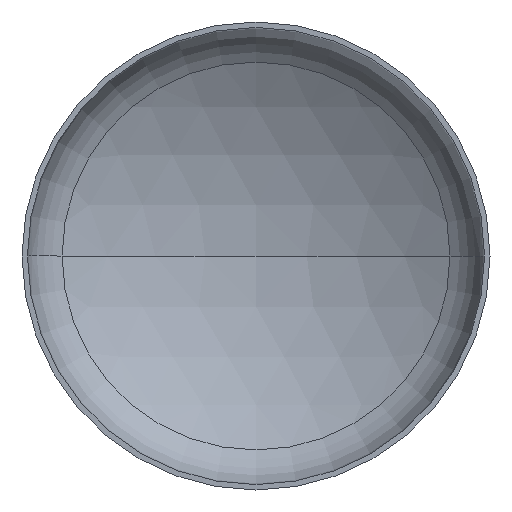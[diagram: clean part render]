
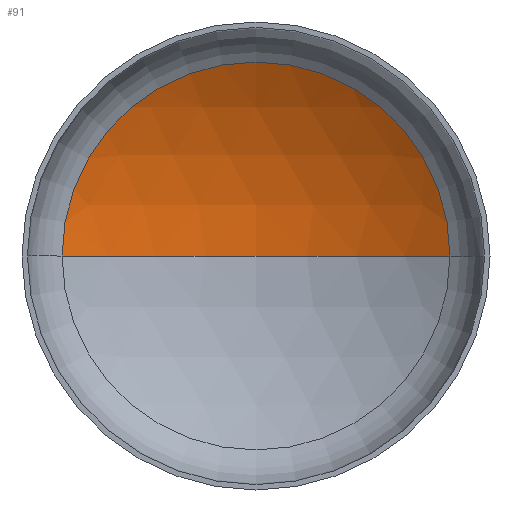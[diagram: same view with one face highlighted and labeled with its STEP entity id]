
A CAD part, front view. The second image highlights one B-rep face of the part: STEP entity #91.
In plain terms, the highlighted spherical face has radius 2400 mm.
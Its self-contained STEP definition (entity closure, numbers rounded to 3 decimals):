
#14 = VERTEX_POINT ( 'NONE', #274 ) ;
#17 = EDGE_LOOP ( 'NONE', ( #78, #44, #162 ) ) ;
#19 = VERTEX_POINT ( 'NONE', #248 ) ;
#33 = AXIS2_PLACEMENT_3D ( 'NONE', #377, #232, #328 ) ;
#37 = AXIS2_PLACEMENT_3D ( 'NONE', #355, #281, #211 ) ;
#39 = AXIS2_PLACEMENT_3D ( 'NONE', #160, #333, #187 ) ;
#44 = ORIENTED_EDGE ( 'NONE', *, *, #352, .T. ) ;
#54 = FACE_OUTER_BOUND ( 'NONE', #17, .T. ) ;
#71 = VERTEX_POINT ( 'NONE', #227 ) ;
#78 = ORIENTED_EDGE ( 'NONE', *, *, #357, .F. ) ;
#89 = AXIS2_PLACEMENT_3D ( 'NONE', #243, #228, #340 ) ;
#91 = ADVANCED_FACE ( 'NONE', ( #54 ), #190, .F. ) ;
#160 = CARTESIAN_POINT ( 'NONE',  ( 0., 503.464, 0. ) ) ;
#162 = ORIENTED_EDGE ( 'NONE', *, *, #350, .T. ) ;
#187 = DIRECTION ( 'NONE',  ( 1., 0., 0. ) ) ;
#190 = SPHERICAL_SURFACE ( 'NONE', #89, 2400. ) ;
#192 = CIRCLE ( 'NONE', #33, 2400. ) ;
#211 = DIRECTION ( 'NONE',  ( 1., 0., 0. ) ) ;
#227 = CARTESIAN_POINT ( 'NONE',  ( 1243.299, 503.464, 0. ) ) ;
#228 = DIRECTION ( 'NONE',  ( 0., 0., -1. ) ) ;
#232 = DIRECTION ( 'NONE',  ( 0., 0., -1. ) ) ;
#243 = CARTESIAN_POINT ( 'NONE',  ( 0., -1549.39, 0. ) ) ;
#248 = CARTESIAN_POINT ( 'NONE',  ( -1243.299, 503.464, 0. ) ) ;
#274 = CARTESIAN_POINT ( 'NONE',  ( 0., 850.61, 0. ) ) ;
#281 = DIRECTION ( 'NONE',  ( 0., 0., 1. ) ) ;
#320 = CIRCLE ( 'NONE', #37, 2400. ) ;
#328 = DIRECTION ( 'NONE',  ( -1., 0., 0. ) ) ;
#333 = DIRECTION ( 'NONE',  ( 0., -1., 0. ) ) ;
#338 = CIRCLE ( 'NONE', #39, 1243.299 ) ;
#340 = DIRECTION ( 'NONE',  ( -1., 0., 0. ) ) ;
#350 = EDGE_CURVE ( 'NONE', #71, #19, #338, .T. ) ;
#352 = EDGE_CURVE ( 'NONE', #14, #71, #192, .T. ) ;
#355 = CARTESIAN_POINT ( 'NONE',  ( 0., -1549.39, 0. ) ) ;
#357 = EDGE_CURVE ( 'NONE', #14, #19, #320, .T. ) ;
#377 = CARTESIAN_POINT ( 'NONE',  ( 0., -1549.39, 0. ) ) ;
